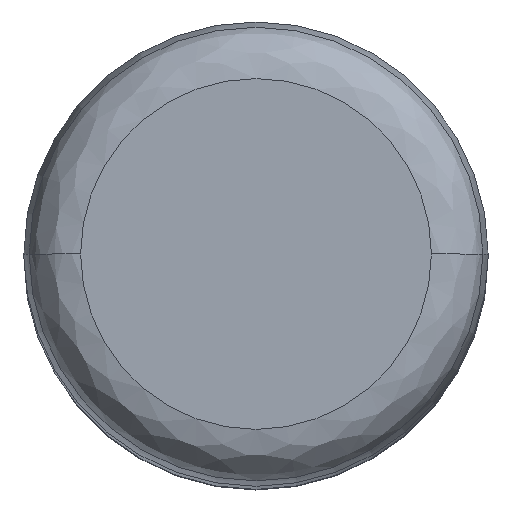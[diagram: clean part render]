
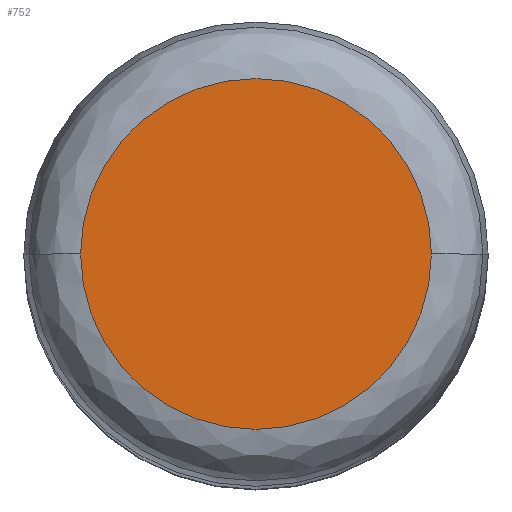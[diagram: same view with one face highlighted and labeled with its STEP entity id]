
A CAD part, top view. The second image highlights one B-rep face of the part: STEP entity #752.
In plain terms, the highlighted planar face has unit normal (0, 0, 1).
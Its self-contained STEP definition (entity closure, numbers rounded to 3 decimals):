
#145=VERTEX_POINT(' ',#146);
#146=CARTESIAN_POINT('',(-15.109,0.,200.));
#147=VERTEX_POINT(' ',#148);
#148=CARTESIAN_POINT('',(15.109,0.,200.));
#419=CIRCLE('',#420,15.109);
#420=AXIS2_PLACEMENT_3D('',#421,#422,#423);
#421=CARTESIAN_POINT('',(0.,0.,200.));
#422=DIRECTION('',(0.,0.,1.));
#423=DIRECTION('',(0.,1.,0.));
#424=EDGE_CURVE(' ',#147,#145,#419,.F.);
#425=CIRCLE('',#426,15.109);
#426=AXIS2_PLACEMENT_3D('',#427,#428,#429);
#427=CARTESIAN_POINT('',(0.,0.,200.));
#428=DIRECTION('',(0.,0.,1.));
#429=DIRECTION('',(0.,-1.,0.));
#430=EDGE_CURVE(' ',#145,#147,#425,.F.);
#743=ORIENTED_EDGE('',*,*,#424,.F.);
#744=ORIENTED_EDGE('',*,*,#430,.F.);
#745=EDGE_LOOP('',(#743,#744));
#746=FACE_OUTER_BOUND('',#745,.T.);
#747=PLANE('',#748);
#748=AXIS2_PLACEMENT_3D('',#749,#750,#751);
#749=CARTESIAN_POINT('',(0.,0.,200.));
#750=DIRECTION('',(0.,0.,1.));
#751=DIRECTION('',(0.,-1.,0.));
#752=ADVANCED_FACE('',(#746),#747,.T.);
